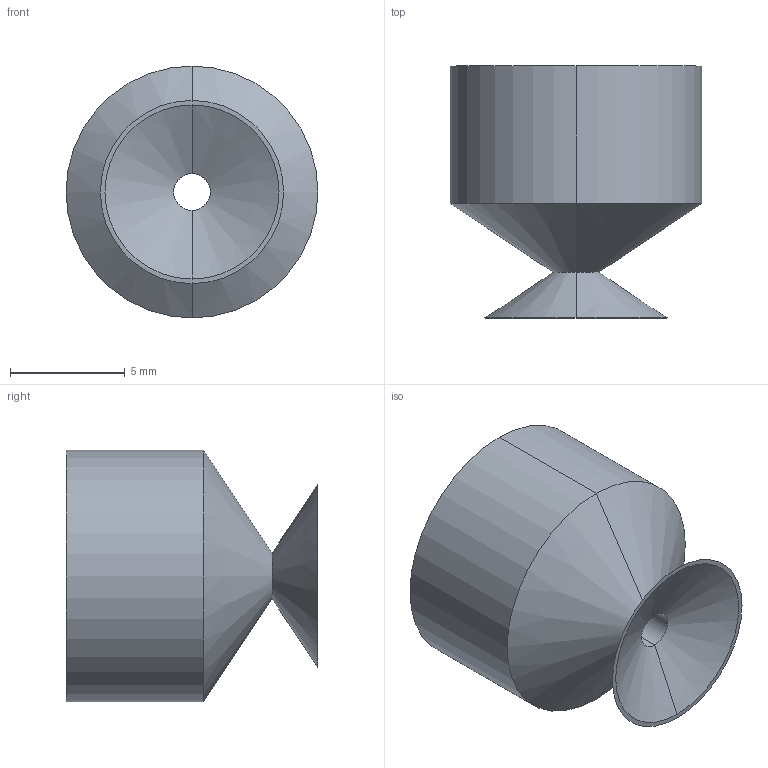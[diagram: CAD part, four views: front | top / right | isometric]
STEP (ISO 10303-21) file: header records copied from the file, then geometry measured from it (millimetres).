
FILE_DESCRIPTION (( 'STEP AP214' ), '1' );
FILE_NAME ('VSH-S8.STEP', '2019-11-30T07:53:18', ( '微软用户' ), ( '微软中国' ), 'SwSTEP 2.0', 'SolidWorks 2016', '' );
FILE_SCHEMA (( 'AUTOMOTIVE_DESIGN' ));
Length unit declared in the file: millimetre
Products named in the file (1): VSH-S8
Bounding box: 11 x 11 x 11 mm (x, y, z)
Volume: 535.4 mm3; surface area: 676.4 mm2
Topology: 1 solids, 1 shells, 18 faces, 36 edges, 22 vertices
Faces by surface type: cylinder 8, cone 6, plane 4
Entity records: 512 total; most frequent: DIRECTION 96, CARTESIAN_POINT 77, ORIENTED_EDGE 72, AXIS2_PLACEMENT_3D 41, EDGE_CURVE 36, EDGE_LOOP 22, VERTEX_POINT 22, CIRCLE 22
